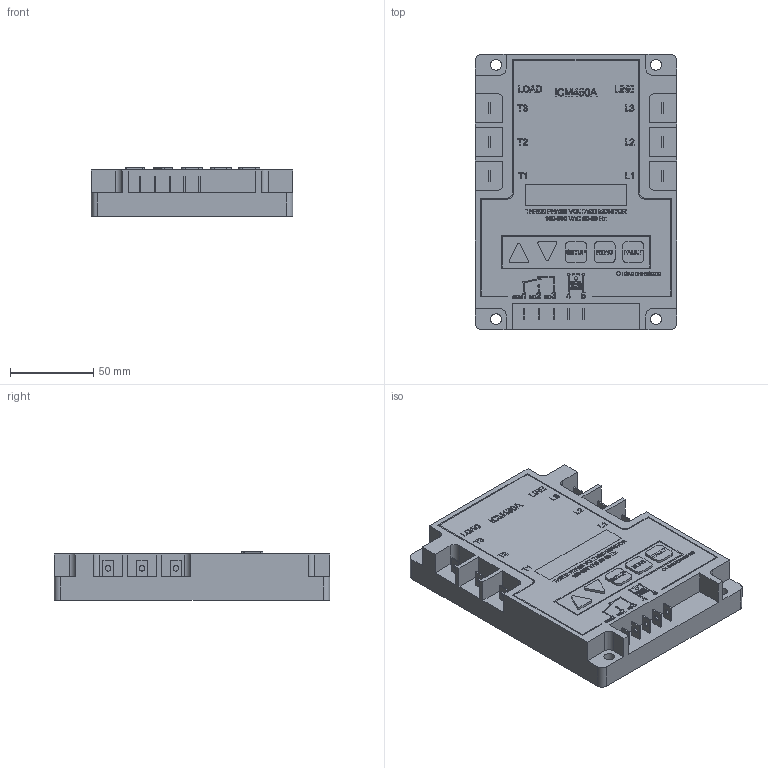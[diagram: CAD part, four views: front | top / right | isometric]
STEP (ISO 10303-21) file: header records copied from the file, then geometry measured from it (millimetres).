
FILE_DESCRIPTION(/* description */ (''),/* implementation_level */ '2;1');
FILE_NAME(/* name */ 'R:\Temp\J. Narvaez\IAN DRAWINGS\002 - Sensors\019 - MCS-PHASE\MCS-PHASE-B-3D.stp',/* time_stamp */ '2022-11-14T09:59:50-05:00',/* author */ ('mjeter'),/* organization */ ('unknown'),/* preprocessor_version */ 'ST-DEVELOPER v19',/* originating_system */ 'Autodesk Inventor 2023',/* authorisation */ '');
FILE_SCHEMA (('AUTOMOTIVE_DESIGN { 1 0 10303 214 3 1 1 }'));
Products named in the file (1): MCS-PHASE-B-3D
Bounding box: 120.65 x 165.1 x 29.26 mm (x, y, z)
Volume: 500511.8 mm3; surface area: 61284 mm2
Topology: 1 solids, 1 shells, 5297 faces, 15273 edges, 10182 vertices
Faces by surface type: plane 5240, cylinder 57
Full cylindrical faces by diameter (mm): 2.159 x2, 3.353 x11, 6.604 x4
Entity records: 170295 total; most frequent: CARTESIAN_POINT 30753, ORIENTED_EDGE 30546, DIRECTION 25983, EDGE_CURVE 15273, LINE 15159, VECTOR 15159, VERTEX_POINT 10182, EDGE_LOOP 5531
